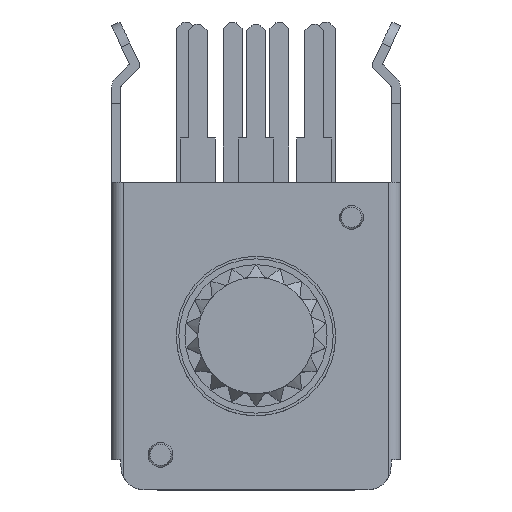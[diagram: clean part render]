
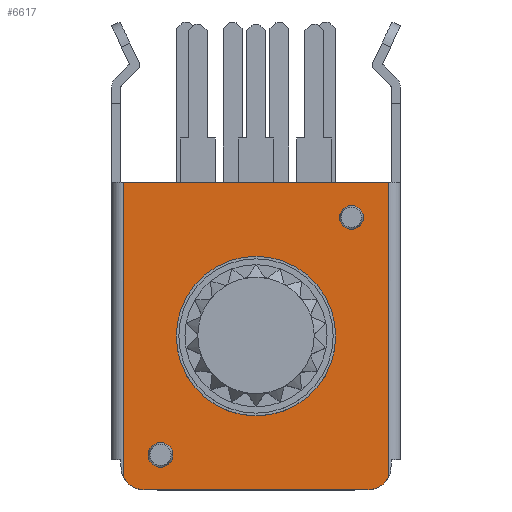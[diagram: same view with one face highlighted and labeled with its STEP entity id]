
A CAD part, top view. The second image highlights one B-rep face of the part: STEP entity #6617.
In plain terms, the highlighted planar face has unit normal (0, 0, 1).
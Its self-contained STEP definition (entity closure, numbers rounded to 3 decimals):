
#463=FACE_OUTER_BOUND($,#810,.T.);
#810=EDGE_LOOP($,(#5997,#5998,#5999,#6000,#6001,#6002));
#948=CIRCLE($,#7052,1.);
#971=CIRCLE($,#7108,1.);
#1554=LINE($,#10560,#2340);
#1607=LINE($,#10701,#2393);
#1681=LINE($,#10896,#2467);
#1782=LINE($,#11148,#2568);
#2340=VECTOR($,#8468,9.6);
#2393=VECTOR($,#8577,12.636);
#2467=VECTOR($,#8763,12.636);
#2568=VECTOR($,#9006,11.4);
#3071=VERTEX_POINT($,#10554);
#3073=VERTEX_POINT($,#10558);
#3122=VERTEX_POINT($,#10679);
#3127=VERTEX_POINT($,#10700);
#3183=VERTEX_POINT($,#10881);
#3186=VERTEX_POINT($,#10894);
#3978=EDGE_CURVE($,#3073,#3071,#1554,.T.);
#4036=EDGE_CURVE($,#3071,#3122,#948,.T.);
#4043=EDGE_CURVE($,#3122,#3127,#1607,.T.);
#4137=EDGE_CURVE($,#3183,#3073,#971,.T.);
#4142=EDGE_CURVE($,#3186,#3183,#1681,.T.);
#4272=EDGE_CURVE($,#3127,#3186,#1782,.T.);
#5997=ORIENTED_EDGE($,*,*,#4036,.F.);
#5998=ORIENTED_EDGE($,*,*,#3978,.F.);
#5999=ORIENTED_EDGE($,*,*,#4137,.F.);
#6000=ORIENTED_EDGE($,*,*,#4142,.F.);
#6001=ORIENTED_EDGE($,*,*,#4272,.F.);
#6002=ORIENTED_EDGE($,*,*,#4043,.F.);
#6279=PLANE($,#7195);
#6617=ADVANCED_FACE($,(#463),#6279,.T.);
#7052=AXIS2_PLACEMENT_3D($,#10687,#8564,#8565);
#7108=AXIS2_PLACEMENT_3D($,#10882,#8754,#8755);
#7195=AXIS2_PLACEMENT_3D($,#11171,#9038,#9039);
#8468=DIRECTION($,(-1.,0.,0.));
#8564=DIRECTION('center_axis',(0.,0.,
-1.));
#8565=DIRECTION('ref_axis',(-0.707,-0.707,0.));
#8577=DIRECTION($,(0.,1.,0.));
#8754=DIRECTION('center_axis',(0.,0.,
-1.));
#8755=DIRECTION('ref_axis',(0.707,-0.707,0.));
#8763=DIRECTION($,(0.,-1.,0.));
#9006=DIRECTION($,(1.,0.,0.));
#9038=DIRECTION('center_axis',(0.,0.,
1.));
#9039=DIRECTION('ref_axis',(-1.,0.,0.));
#10554=CARTESIAN_POINT('',(-4.8,-6.6,6.1));
#10558=CARTESIAN_POINT('',(4.8,-6.6,6.1));
#10560=CARTESIAN_POINT($,(5.8,-6.6,6.1));
#10679=CARTESIAN_POINT('',(-5.7,-6.036,6.1));
#10687=CARTESIAN_POINT('Origin',(-4.8,-5.6,6.1));
#10700=CARTESIAN_POINT('',(-5.7,6.6,6.1));
#10701=CARTESIAN_POINT($,(-5.7,0.,6.1));
#10881=CARTESIAN_POINT('',(5.7,-6.036,6.1));
#10882=CARTESIAN_POINT('Origin',(4.8,-5.6,6.1));
#10894=CARTESIAN_POINT('',(5.7,6.6,6.1));
#10896=CARTESIAN_POINT($,(5.7,0.,6.1));
#11148=CARTESIAN_POINT($,(5.8,6.6,6.1));
#11171=CARTESIAN_POINT('Origin',(0.,0.,
6.1));
